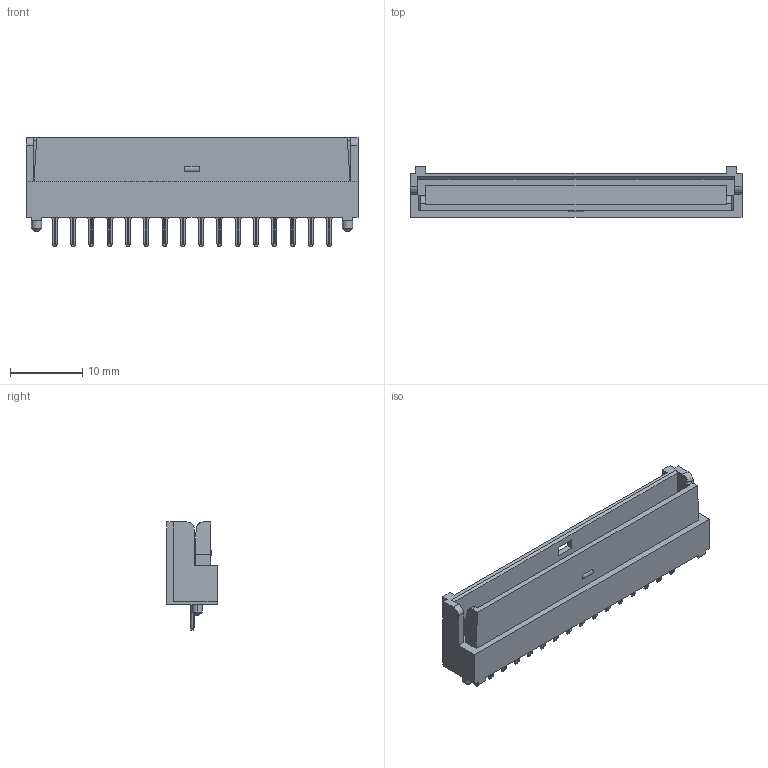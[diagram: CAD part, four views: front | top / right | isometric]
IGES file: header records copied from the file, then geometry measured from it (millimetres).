
Start section: START RECORD GO HERE.
Global section: file name: 00_9021_1612_00_xxx.igs; native system: IBM CATIA IGES - CATIA Version 5 Release 14 ; preprocessor: CATIA Version 5 Release 14 ; author: KYOCERA ELCO CORPORATION; organization: R&D; date: 20090812.144914; units: millimetre
Bounding box: 46.1 x 7 x 15 mm (x, y, z)
Surface area: 2486.7 mm2 (no closed solid volume)
Topology: 0 solids, 479 shells, 479 faces, 2838 edges, 2806 vertices
Faces by surface type: plane 370, revolution 109
